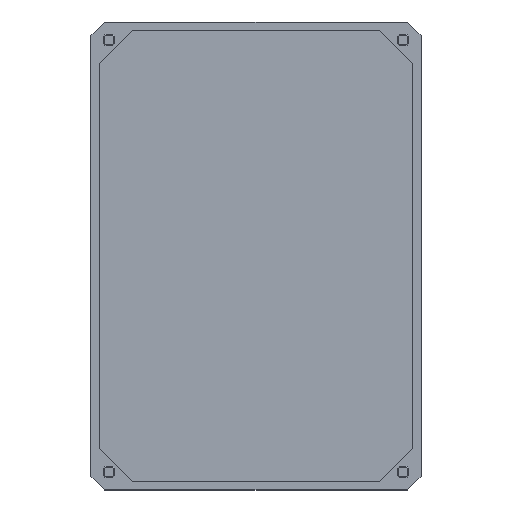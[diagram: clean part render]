
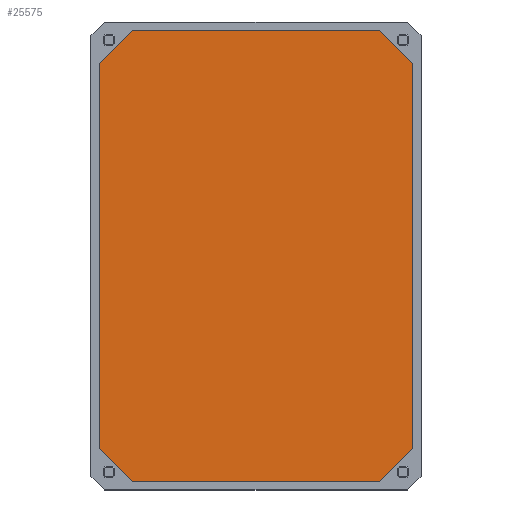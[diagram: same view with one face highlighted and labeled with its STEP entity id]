
A CAD part, top view. The second image highlights one B-rep face of the part: STEP entity #25575.
In plain terms, the highlighted planar face has unit normal (0, 0, 1).
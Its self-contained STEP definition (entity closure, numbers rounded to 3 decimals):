
#3525 = PLANE('',#3526);
#3526 = AXIS2_PLACEMENT_3D('',#3527,#3528,#3529);
#3527 = CARTESIAN_POINT('',(105.,3.,5.));
#3528 = DIRECTION('',(-0.707,0.707,0.));
#3529 = DIRECTION('',(0.707,0.707,0.));
#3551 = PLANE('',#3552);
#3552 = AXIS2_PLACEMENT_3D('',#3553,#3554,#3555);
#3553 = CARTESIAN_POINT('',(15.,3.,5.));
#3554 = DIRECTION('',(0.,1.,0.));
#3555 = DIRECTION('',(1.,0.,0.));
#3577 = PLANE('',#3578);
#3578 = AXIS2_PLACEMENT_3D('',#3579,#3580,#3581);
#3579 = CARTESIAN_POINT('',(3.,15.,5.));
#3580 = DIRECTION('',(0.707,0.707,-0.));
#3581 = DIRECTION('',(0.707,-0.707,0.));
#3603 = PLANE('',#3604);
#3604 = AXIS2_PLACEMENT_3D('',#3605,#3606,#3607);
#3605 = CARTESIAN_POINT('',(3.,155.,5.));
#3606 = DIRECTION('',(1.,0.,-0.));
#3607 = DIRECTION('',(0.,-1.,0.));
#3629 = PLANE('',#3630);
#3630 = AXIS2_PLACEMENT_3D('',#3631,#3632,#3633);
#3631 = CARTESIAN_POINT('',(15.,167.,5.));
#3632 = DIRECTION('',(0.707,-0.707,0.));
#3633 = DIRECTION('',(-0.707,-0.707,0.));
#3655 = PLANE('',#3656);
#3656 = AXIS2_PLACEMENT_3D('',#3657,#3658,#3659);
#3657 = CARTESIAN_POINT('',(105.,167.,5.));
#3658 = DIRECTION('',(0.,-1.,0.));
#3659 = DIRECTION('',(-1.,0.,0.));
#3681 = PLANE('',#3682);
#3682 = AXIS2_PLACEMENT_3D('',#3683,#3684,#3685);
#3683 = CARTESIAN_POINT('',(117.,155.,5.));
#3684 = DIRECTION('',(-0.707,-0.707,0.));
#3685 = DIRECTION('',(-0.707,0.707,0.));
#3705 = PLANE('',#3706);
#3706 = AXIS2_PLACEMENT_3D('',#3707,#3708,#3709);
#3707 = CARTESIAN_POINT('',(117.,15.,5.));
#3708 = DIRECTION('',(-1.,0.,0.));
#3709 = DIRECTION('',(0.,1.,0.));
#14417 = EDGE_CURVE('',#14418,#14420,#14422,.T.);
#14418 = VERTEX_POINT('',#14419);
#14419 = CARTESIAN_POINT('',(105.,3.,5.));
#14420 = VERTEX_POINT('',#14421);
#14421 = CARTESIAN_POINT('',(117.,15.,5.));
#14422 = SURFACE_CURVE('',#14423,(#14427,#14434),.PCURVE_S1.);
#14423 = LINE('',#14424,#14425);
#14424 = CARTESIAN_POINT('',(105.,3.,5.));
#14425 = VECTOR('',#14426,1.);
#14426 = DIRECTION('',(0.707,0.707,0.));
#14427 = PCURVE('',#3525,#14428);
#14428 = DEFINITIONAL_REPRESENTATION('',(#14429),#14433);
#14429 = LINE('',#14430,#14431);
#14430 = CARTESIAN_POINT('',(0.,0.));
#14431 = VECTOR('',#14432,1.);
#14432 = DIRECTION('',(1.,0.));
#14433 = ( GEOMETRIC_REPRESENTATION_CONTEXT(2) 
PARAMETRIC_REPRESENTATION_CONTEXT() REPRESENTATION_CONTEXT('2D SPACE',''
  ) );
#14434 = PCURVE('',#14435,#14440);
#14435 = PLANE('',#14436);
#14436 = AXIS2_PLACEMENT_3D('',#14437,#14438,#14439);
#14437 = CARTESIAN_POINT('',(60.,85.,5.));
#14438 = DIRECTION('',(0.,0.,1.));
#14439 = DIRECTION('',(1.,0.,-0.));
#14440 = DEFINITIONAL_REPRESENTATION('',(#14441),#14445);
#14441 = LINE('',#14442,#14443);
#14442 = CARTESIAN_POINT('',(45.,-82.));
#14443 = VECTOR('',#14444,1.);
#14444 = DIRECTION('',(0.707,0.707));
#14445 = ( GEOMETRIC_REPRESENTATION_CONTEXT(2) 
PARAMETRIC_REPRESENTATION_CONTEXT() REPRESENTATION_CONTEXT('2D SPACE',''
  ) );
#14493 = EDGE_CURVE('',#14420,#14494,#14496,.T.);
#14494 = VERTEX_POINT('',#14495);
#14495 = CARTESIAN_POINT('',(117.,155.,5.));
#14496 = SURFACE_CURVE('',#14497,(#14501,#14508),.PCURVE_S1.);
#14497 = LINE('',#14498,#14499);
#14498 = CARTESIAN_POINT('',(117.,15.,5.));
#14499 = VECTOR('',#14500,1.);
#14500 = DIRECTION('',(0.,1.,0.));
#14501 = PCURVE('',#3705,#14502);
#14502 = DEFINITIONAL_REPRESENTATION('',(#14503),#14507);
#14503 = LINE('',#14504,#14505);
#14504 = CARTESIAN_POINT('',(0.,0.));
#14505 = VECTOR('',#14506,1.);
#14506 = DIRECTION('',(1.,0.));
#14507 = ( GEOMETRIC_REPRESENTATION_CONTEXT(2) 
PARAMETRIC_REPRESENTATION_CONTEXT() REPRESENTATION_CONTEXT('2D SPACE',''
  ) );
#14508 = PCURVE('',#14435,#14509);
#14509 = DEFINITIONAL_REPRESENTATION('',(#14510),#14514);
#14510 = LINE('',#14511,#14512);
#14511 = CARTESIAN_POINT('',(57.,-70.));
#14512 = VECTOR('',#14513,1.);
#14513 = DIRECTION('',(0.,1.));
#14514 = ( GEOMETRIC_REPRESENTATION_CONTEXT(2) 
PARAMETRIC_REPRESENTATION_CONTEXT() REPRESENTATION_CONTEXT('2D SPACE',''
  ) );
#14542 = EDGE_CURVE('',#14543,#14418,#14545,.T.);
#14543 = VERTEX_POINT('',#14544);
#14544 = CARTESIAN_POINT('',(15.,3.,5.));
#14545 = SURFACE_CURVE('',#14546,(#14550,#14557),.PCURVE_S1.);
#14546 = LINE('',#14547,#14548);
#14547 = CARTESIAN_POINT('',(15.,3.,5.));
#14548 = VECTOR('',#14549,1.);
#14549 = DIRECTION('',(1.,0.,0.));
#14550 = PCURVE('',#3551,#14551);
#14551 = DEFINITIONAL_REPRESENTATION('',(#14552),#14556);
#14552 = LINE('',#14553,#14554);
#14553 = CARTESIAN_POINT('',(0.,0.));
#14554 = VECTOR('',#14555,1.);
#14555 = DIRECTION('',(1.,0.));
#14556 = ( GEOMETRIC_REPRESENTATION_CONTEXT(2) 
PARAMETRIC_REPRESENTATION_CONTEXT() REPRESENTATION_CONTEXT('2D SPACE',''
  ) );
#14557 = PCURVE('',#14435,#14558);
#14558 = DEFINITIONAL_REPRESENTATION('',(#14559),#14563);
#14559 = LINE('',#14560,#14561);
#14560 = CARTESIAN_POINT('',(-45.,-82.));
#14561 = VECTOR('',#14562,1.);
#14562 = DIRECTION('',(1.,0.));
#14563 = ( GEOMETRIC_REPRESENTATION_CONTEXT(2) 
PARAMETRIC_REPRESENTATION_CONTEXT() REPRESENTATION_CONTEXT('2D SPACE',''
  ) );
#14591 = EDGE_CURVE('',#14494,#14592,#14594,.T.);
#14592 = VERTEX_POINT('',#14593);
#14593 = CARTESIAN_POINT('',(105.,167.,5.));
#14594 = SURFACE_CURVE('',#14595,(#14599,#14606),.PCURVE_S1.);
#14595 = LINE('',#14596,#14597);
#14596 = CARTESIAN_POINT('',(117.,155.,5.));
#14597 = VECTOR('',#14598,1.);
#14598 = DIRECTION('',(-0.707,0.707,0.));
#14599 = PCURVE('',#3681,#14600);
#14600 = DEFINITIONAL_REPRESENTATION('',(#14601),#14605);
#14601 = LINE('',#14602,#14603);
#14602 = CARTESIAN_POINT('',(0.,0.));
#14603 = VECTOR('',#14604,1.);
#14604 = DIRECTION('',(1.,0.));
#14605 = ( GEOMETRIC_REPRESENTATION_CONTEXT(2) 
PARAMETRIC_REPRESENTATION_CONTEXT() REPRESENTATION_CONTEXT('2D SPACE',''
  ) );
#14606 = PCURVE('',#14435,#14607);
#14607 = DEFINITIONAL_REPRESENTATION('',(#14608),#14612);
#14608 = LINE('',#14609,#14610);
#14609 = CARTESIAN_POINT('',(57.,70.));
#14610 = VECTOR('',#14611,1.);
#14611 = DIRECTION('',(-0.707,0.707));
#14612 = ( GEOMETRIC_REPRESENTATION_CONTEXT(2) 
PARAMETRIC_REPRESENTATION_CONTEXT() REPRESENTATION_CONTEXT('2D SPACE',''
  ) );
#14640 = EDGE_CURVE('',#14641,#14543,#14643,.T.);
#14641 = VERTEX_POINT('',#14642);
#14642 = CARTESIAN_POINT('',(3.,15.,5.));
#14643 = SURFACE_CURVE('',#14644,(#14648,#14655),.PCURVE_S1.);
#14644 = LINE('',#14645,#14646);
#14645 = CARTESIAN_POINT('',(3.,15.,5.));
#14646 = VECTOR('',#14647,1.);
#14647 = DIRECTION('',(0.707,-0.707,0.));
#14648 = PCURVE('',#3577,#14649);
#14649 = DEFINITIONAL_REPRESENTATION('',(#14650),#14654);
#14650 = LINE('',#14651,#14652);
#14651 = CARTESIAN_POINT('',(0.,0.));
#14652 = VECTOR('',#14653,1.);
#14653 = DIRECTION('',(1.,0.));
#14654 = ( GEOMETRIC_REPRESENTATION_CONTEXT(2) 
PARAMETRIC_REPRESENTATION_CONTEXT() REPRESENTATION_CONTEXT('2D SPACE',''
  ) );
#14655 = PCURVE('',#14435,#14656);
#14656 = DEFINITIONAL_REPRESENTATION('',(#14657),#14661);
#14657 = LINE('',#14658,#14659);
#14658 = CARTESIAN_POINT('',(-57.,-70.));
#14659 = VECTOR('',#14660,1.);
#14660 = DIRECTION('',(0.707,-0.707));
#14661 = ( GEOMETRIC_REPRESENTATION_CONTEXT(2) 
PARAMETRIC_REPRESENTATION_CONTEXT() REPRESENTATION_CONTEXT('2D SPACE',''
  ) );
#14689 = EDGE_CURVE('',#14592,#14690,#14692,.T.);
#14690 = VERTEX_POINT('',#14691);
#14691 = CARTESIAN_POINT('',(15.,167.,5.));
#14692 = SURFACE_CURVE('',#14693,(#14697,#14704),.PCURVE_S1.);
#14693 = LINE('',#14694,#14695);
#14694 = CARTESIAN_POINT('',(105.,167.,5.));
#14695 = VECTOR('',#14696,1.);
#14696 = DIRECTION('',(-1.,0.,0.));
#14697 = PCURVE('',#3655,#14698);
#14698 = DEFINITIONAL_REPRESENTATION('',(#14699),#14703);
#14699 = LINE('',#14700,#14701);
#14700 = CARTESIAN_POINT('',(0.,-0.));
#14701 = VECTOR('',#14702,1.);
#14702 = DIRECTION('',(1.,0.));
#14703 = ( GEOMETRIC_REPRESENTATION_CONTEXT(2) 
PARAMETRIC_REPRESENTATION_CONTEXT() REPRESENTATION_CONTEXT('2D SPACE',''
  ) );
#14704 = PCURVE('',#14435,#14705);
#14705 = DEFINITIONAL_REPRESENTATION('',(#14706),#14710);
#14706 = LINE('',#14707,#14708);
#14707 = CARTESIAN_POINT('',(45.,82.));
#14708 = VECTOR('',#14709,1.);
#14709 = DIRECTION('',(-1.,0.));
#14710 = ( GEOMETRIC_REPRESENTATION_CONTEXT(2) 
PARAMETRIC_REPRESENTATION_CONTEXT() REPRESENTATION_CONTEXT('2D SPACE',''
  ) );
#14738 = EDGE_CURVE('',#14739,#14641,#14741,.T.);
#14739 = VERTEX_POINT('',#14740);
#14740 = CARTESIAN_POINT('',(3.,155.,5.));
#14741 = SURFACE_CURVE('',#14742,(#14746,#14753),.PCURVE_S1.);
#14742 = LINE('',#14743,#14744);
#14743 = CARTESIAN_POINT('',(3.,155.,5.));
#14744 = VECTOR('',#14745,1.);
#14745 = DIRECTION('',(0.,-1.,0.));
#14746 = PCURVE('',#3603,#14747);
#14747 = DEFINITIONAL_REPRESENTATION('',(#14748),#14752);
#14748 = LINE('',#14749,#14750);
#14749 = CARTESIAN_POINT('',(0.,0.));
#14750 = VECTOR('',#14751,1.);
#14751 = DIRECTION('',(1.,0.));
#14752 = ( GEOMETRIC_REPRESENTATION_CONTEXT(2) 
PARAMETRIC_REPRESENTATION_CONTEXT() REPRESENTATION_CONTEXT('2D SPACE',''
  ) );
#14753 = PCURVE('',#14435,#14754);
#14754 = DEFINITIONAL_REPRESENTATION('',(#14755),#14759);
#14755 = LINE('',#14756,#14757);
#14756 = CARTESIAN_POINT('',(-57.,70.));
#14757 = VECTOR('',#14758,1.);
#14758 = DIRECTION('',(0.,-1.));
#14759 = ( GEOMETRIC_REPRESENTATION_CONTEXT(2) 
PARAMETRIC_REPRESENTATION_CONTEXT() REPRESENTATION_CONTEXT('2D SPACE',''
  ) );
#14787 = EDGE_CURVE('',#14690,#14739,#14788,.T.);
#14788 = SURFACE_CURVE('',#14789,(#14793,#14800),.PCURVE_S1.);
#14789 = LINE('',#14790,#14791);
#14790 = CARTESIAN_POINT('',(15.,167.,5.));
#14791 = VECTOR('',#14792,1.);
#14792 = DIRECTION('',(-0.707,-0.707,0.));
#14793 = PCURVE('',#3629,#14794);
#14794 = DEFINITIONAL_REPRESENTATION('',(#14795),#14799);
#14795 = LINE('',#14796,#14797);
#14796 = CARTESIAN_POINT('',(0.,0.));
#14797 = VECTOR('',#14798,1.);
#14798 = DIRECTION('',(1.,0.));
#14799 = ( GEOMETRIC_REPRESENTATION_CONTEXT(2) 
PARAMETRIC_REPRESENTATION_CONTEXT() REPRESENTATION_CONTEXT('2D SPACE',''
  ) );
#14800 = PCURVE('',#14435,#14801);
#14801 = DEFINITIONAL_REPRESENTATION('',(#14802),#14806);
#14802 = LINE('',#14803,#14804);
#14803 = CARTESIAN_POINT('',(-45.,82.));
#14804 = VECTOR('',#14805,1.);
#14805 = DIRECTION('',(-0.707,-0.707));
#14806 = ( GEOMETRIC_REPRESENTATION_CONTEXT(2) 
PARAMETRIC_REPRESENTATION_CONTEXT() REPRESENTATION_CONTEXT('2D SPACE',''
  ) );
#25575 = ADVANCED_FACE('',(#25576),#14435,.T.);
#25576 = FACE_BOUND('',#25577,.T.);
#25577 = EDGE_LOOP('',(#25578,#25579,#25580,#25581,#25582,#25583,#25584,
    #25585));
#25578 = ORIENTED_EDGE('',*,*,#14542,.T.);
#25579 = ORIENTED_EDGE('',*,*,#14417,.T.);
#25580 = ORIENTED_EDGE('',*,*,#14493,.T.);
#25581 = ORIENTED_EDGE('',*,*,#14591,.T.);
#25582 = ORIENTED_EDGE('',*,*,#14689,.T.);
#25583 = ORIENTED_EDGE('',*,*,#14787,.T.);
#25584 = ORIENTED_EDGE('',*,*,#14738,.T.);
#25585 = ORIENTED_EDGE('',*,*,#14640,.T.);
